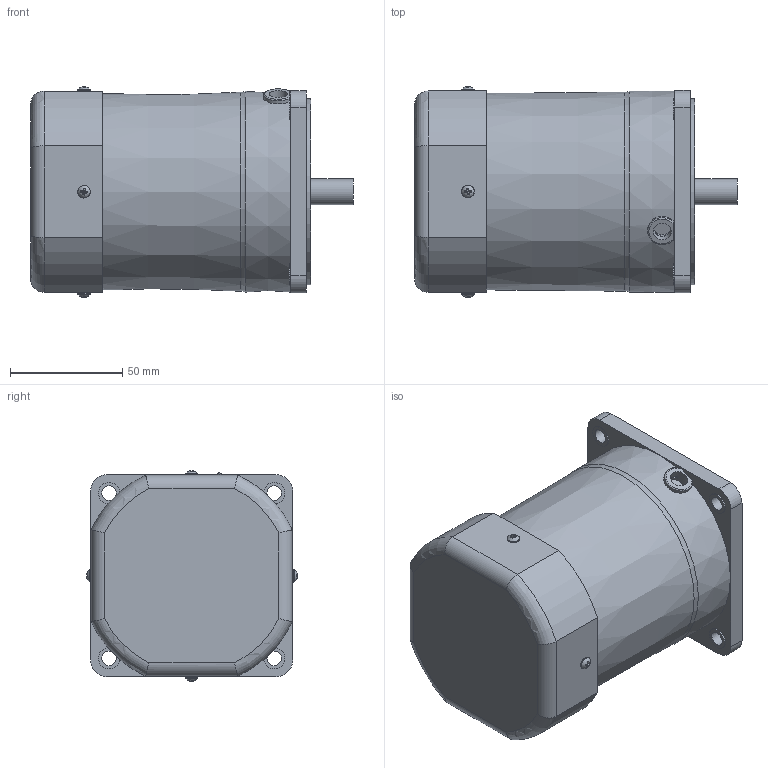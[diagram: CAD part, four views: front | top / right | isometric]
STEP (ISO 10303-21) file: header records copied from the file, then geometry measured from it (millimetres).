
FILE_DESCRIPTION((''),'2;1');
FILE_NAME('D:\STP파일\60W MOTOR\S9I60G.stp','2013-05-20T18:02:31',('leebh'),(''),'Autodesk Inventor 2011','Autodesk Inventor 2011','');
FILE_SCHEMA(('AUTOMOTIVE_DESIGN { 1 0 10303 214 1 1 1 1 }'));
Length unit declared in the file: millimetre
Products named in the file (1): 부품1
Bounding box: 143.8 x 93.89 x 93.75 mm (x, y, z)
Volume: 790989.4 mm3; surface area: 57294.1 mm2
Topology: 1 solids, 2 shells, 180 faces, 430 edges, 278 vertices
Faces by surface type: plane 107, cylinder 49, torus 14, cone 6, bspline 4
Full cylindrical faces by diameter (mm): 3 x4, 3.5 x4, 5.6 x4, 6.5 x4, 8 x1, 9.5 x4, 10 x1, 11.5 x1, 40 x1, 83 x1
Entity records: 5457 total; most frequent: CARTESIAN_POINT 1413, DIRECTION 784, ORIENTED_EDGE 754, EDGE_CURVE 377, AXIS2_PLACEMENT_3D 291, VERTEX_POINT 270, EDGE_LOOP 259, VECTOR 202
